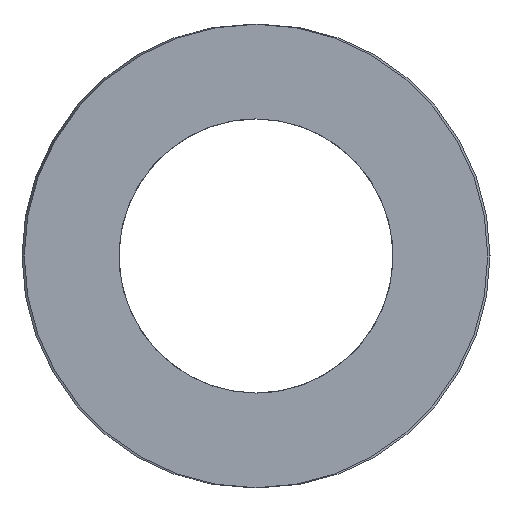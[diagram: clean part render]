
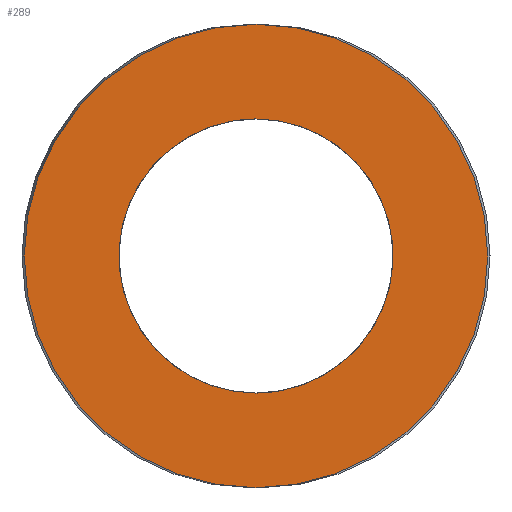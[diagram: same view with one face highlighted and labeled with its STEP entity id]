
A CAD part, left-side view. The second image highlights one B-rep face of the part: STEP entity #289.
In plain terms, the highlighted planar face has unit normal (-1, 0, 0).
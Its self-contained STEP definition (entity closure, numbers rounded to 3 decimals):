
#63=CARTESIAN_POINT('Vertex',(0.,4.65,0.)) ;
#77=CARTESIAN_POINT('Vertex',(0.,-4.65,0.)) ;
#80=CARTESIAN_POINT('Axis2P3D Location',(0.,0.,0.)) ;
#97=CARTESIAN_POINT('Axis2P3D Location',(0.,0.,0.)) ;
#226=CARTESIAN_POINT('Axis2P3D Location',(0.,2.325,0.)) ;
#236=CARTESIAN_POINT('Control Point',(0.,0.,-2.75)) ;
#237=CARTESIAN_POINT('Control Point',(0.,0.325,-2.75)) ;
#238=CARTESIAN_POINT('Control Point',(0.,0.65,-2.702)) ;
#239=CARTESIAN_POINT('Control Point',(0.,0.965,-2.606)) ;
#240=CARTESIAN_POINT('Control Point',(0.,1.559,-2.324)) ;
#241=CARTESIAN_POINT('Control Point',(0.,2.045,-1.882)) ;
#242=CARTESIAN_POINT('Control Point',(0.,2.253,-1.626)) ;
#243=CARTESIAN_POINT('Control Point',(0.,2.589,-1.061)) ;
#244=CARTESIAN_POINT('Control Point',(0.,2.747,-0.424)) ;
#245=CARTESIAN_POINT('Control Point',(0.,2.777,-0.095)) ;
#246=CARTESIAN_POINT('Control Point',(0.,2.741,0.561)) ;
#247=CARTESIAN_POINT('Control Point',(0.,2.517,1.178)) ;
#248=CARTESIAN_POINT('Control Point',(0.,2.36,1.468)) ;
#249=CARTESIAN_POINT('Control Point',(0.,1.964,1.993)) ;
#250=CARTESIAN_POINT('Control Point',(0.,1.434,2.38)) ;
#251=CARTESIAN_POINT('Control Point',(0.,1.142,2.534)) ;
#252=CARTESIAN_POINT('Control Point',(0.,0.733,2.675)) ;
#253=CARTESIAN_POINT('Control Point',(0.,0.309,2.735)) ;
#254=CARTESIAN_POINT('Control Point',(0.,0.206,2.745)) ;
#255=CARTESIAN_POINT('Control Point',(0.,0.103,2.75)) ;
#256=CARTESIAN_POINT('Control Point',(0.,0.,2.75)) ;
#257=CARTESIAN_POINT('Vertex',(0.,0.,-2.75)) ;
#259=CARTESIAN_POINT('Vertex',(0.,0.,2.75)) ;
#263=CARTESIAN_POINT('Control Point',(0.,0.,2.75)) ;
#264=CARTESIAN_POINT('Control Point',(0.,-0.325,2.75)) ;
#265=CARTESIAN_POINT('Control Point',(0.,-0.65,2.702)) ;
#266=CARTESIAN_POINT('Control Point',(0.,-0.965,2.606)) ;
#267=CARTESIAN_POINT('Control Point',(0.,-1.559,2.324)) ;
#268=CARTESIAN_POINT('Control Point',(0.,-2.045,1.882)) ;
#269=CARTESIAN_POINT('Control Point',(0.,-2.253,1.626)) ;
#270=CARTESIAN_POINT('Control Point',(0.,-2.589,1.061)) ;
#271=CARTESIAN_POINT('Control Point',(0.,-2.747,0.424)) ;
#272=CARTESIAN_POINT('Control Point',(0.,-2.777,0.095)) ;
#273=CARTESIAN_POINT('Control Point',(0.,-2.741,-0.561)) ;
#274=CARTESIAN_POINT('Control Point',(0.,-2.517,-1.178)) ;
#275=CARTESIAN_POINT('Control Point',(0.,-2.36,-1.468)) ;
#276=CARTESIAN_POINT('Control Point',(0.,-1.964,-1.993)) ;
#277=CARTESIAN_POINT('Control Point',(0.,-1.434,-2.38)) ;
#278=CARTESIAN_POINT('Control Point',(0.,-1.142,-2.534)) ;
#279=CARTESIAN_POINT('Control Point',(0.,-0.733,-2.675)) ;
#280=CARTESIAN_POINT('Control Point',(0.,-0.309,-2.735)) ;
#281=CARTESIAN_POINT('Control Point',(0.,-0.206,-2.745)) ;
#282=CARTESIAN_POINT('Control Point',(0.,-0.103,-2.75)) ;
#283=CARTESIAN_POINT('Control Point',(0.,0.,-2.75)) ;
#81=DIRECTION('Axis2P3D Direction',(1.,-0.,0.)) ;
#98=DIRECTION('Axis2P3D Direction',(1.,-0.,0.)) ;
#227=DIRECTION('Axis2P3D Direction',(-1.,0.,0.)) ;
#228=DIRECTION('Axis2P3D XDirection',(0.,1.,0.)) ;
#82=AXIS2_PLACEMENT_3D('Circle Axis2P3D',#80,#81,$) ;
#99=AXIS2_PLACEMENT_3D('Circle Axis2P3D',#97,#98,$) ;
#229=AXIS2_PLACEMENT_3D('Plane Axis2P3D',#226,#227,#228) ;
#232=ORIENTED_EDGE('',*,*,#84,.T.) ;
#233=ORIENTED_EDGE('',*,*,#101,.T.) ;
#286=ORIENTED_EDGE('',*,*,#261,.T.) ;
#287=ORIENTED_EDGE('',*,*,#284,.T.) ;
#288=FACE_BOUND('',#285,.T.) ;
#289=ADVANCED_FACE('392-B10-032',(#234,#288),#230,.T.) ;
#235=B_SPLINE_CURVE_WITH_KNOTS('',5,(#236,#237,#238,#239,#240,#241,#242,#243,#244,#245,#246,#247,#248,#249,#250,#251,#252,#253,#254,#255,#256),.UNSPECIFIED.,.F.,.U.,(6,3,3,3,3,3,6),(0.,2.298,4.596,6.893,9.191,11.489,12.217),.UNSPECIFIED.) ;
#262=B_SPLINE_CURVE_WITH_KNOTS('',5,(#263,#264,#265,#266,#267,#268,#269,#270,#271,#272,#273,#274,#275,#276,#277,#278,#279,#280,#281,#282,#283),.UNSPECIFIED.,.F.,.U.,(6,3,3,3,3,3,6),(0.,2.298,4.596,6.893,9.191,11.489,12.217),.UNSPECIFIED.) ;
#83=CIRCLE('generated circle',#82,4.65) ;
#100=CIRCLE('generated circle',#99,4.65) ;
#84=EDGE_CURVE('',#64,#78,#83,.F.) ;
#101=EDGE_CURVE('',#78,#64,#100,.F.) ;
#261=EDGE_CURVE('',#258,#260,#235,.T.) ;
#284=EDGE_CURVE('',#260,#258,#262,.T.) ;
#231=EDGE_LOOP('',(#232,#233)) ;
#285=EDGE_LOOP('',(#286,#287)) ;
#234=FACE_OUTER_BOUND('',#231,.T.) ;
#230=PLANE('Plane',#229) ;
#64=VERTEX_POINT('',#63) ;
#78=VERTEX_POINT('',#77) ;
#258=VERTEX_POINT('',#257) ;
#260=VERTEX_POINT('',#259) ;
